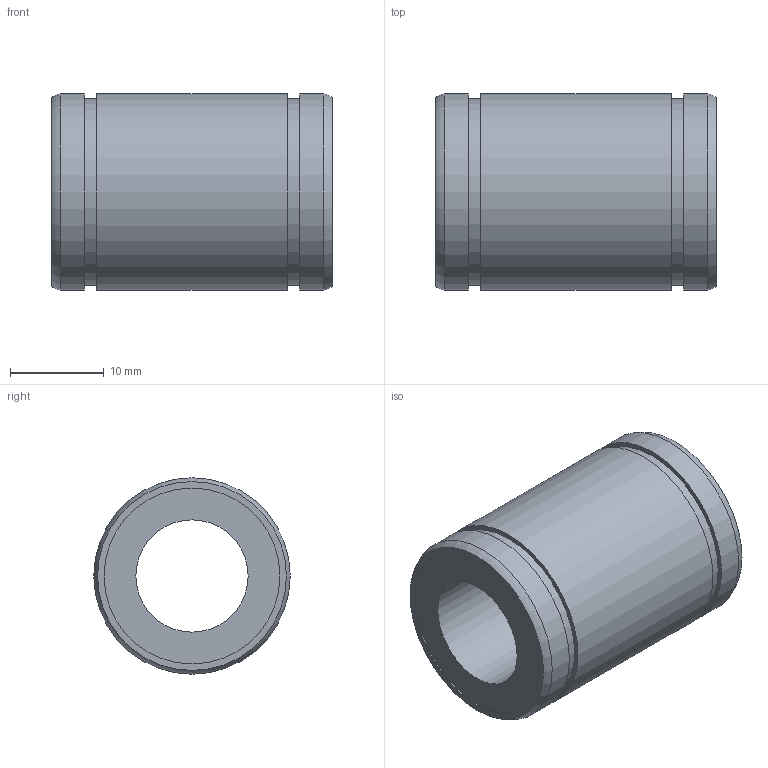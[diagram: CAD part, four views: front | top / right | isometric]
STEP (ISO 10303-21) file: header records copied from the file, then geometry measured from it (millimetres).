
FILE_DESCRIPTION((''),'2;1');
FILE_NAME('D:\製品 (図面)\カタログ用3D\リニアベアリング関連\STEP形式\L\L12.stp','2010-06-02T17:31:59',('Tsuchiya'),(''),'Autodesk Inventor 10','Autodesk Inventor 10','');
FILE_SCHEMA(('AUTOMOTIVE_DESIGN { 1 0 10303 214 1 1 1 1 }'));
Length unit declared in the file: millimetre
Products named in the file (1): L12
Bounding box: 30 x 21 x 21 mm (x, y, z)
Volume: 6860.2 mm3; surface area: 3658.7 mm2
Topology: 1 solids, 1 shells, 18 faces, 28 edges, 18 vertices
Faces by surface type: cylinder 8, plane 8, torus 2
Full cylindrical faces by diameter (mm): 12 x1, 18.8 x2, 20 x2, 21 x3
Entity records: 391 total; most frequent: DIRECTION 74, CARTESIAN_POINT 55, AXIS2_PLACEMENT_3D 37, ORIENTED_EDGE 36, EDGE_LOOP 36, VERTEX_POINT 18, CIRCLE 18, EDGE_CURVE 18
